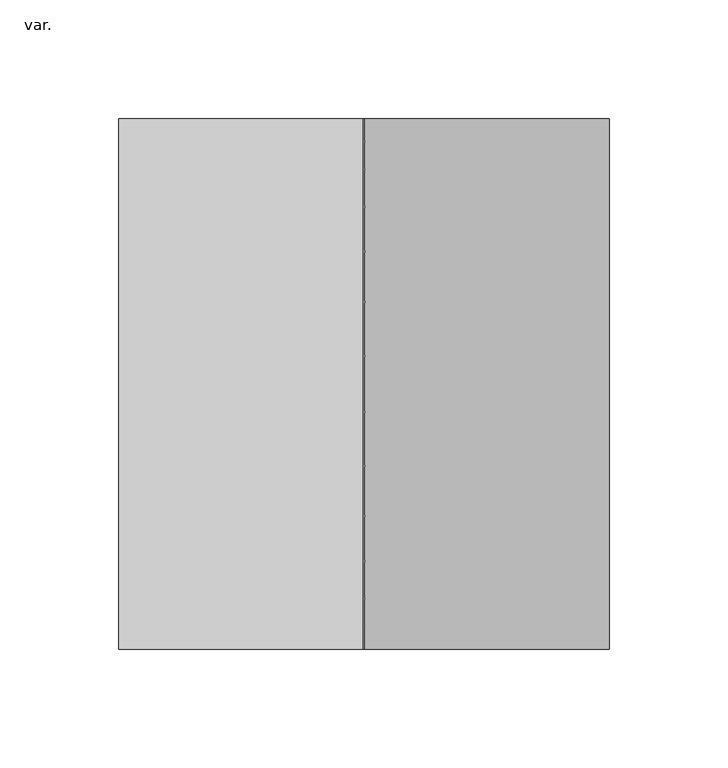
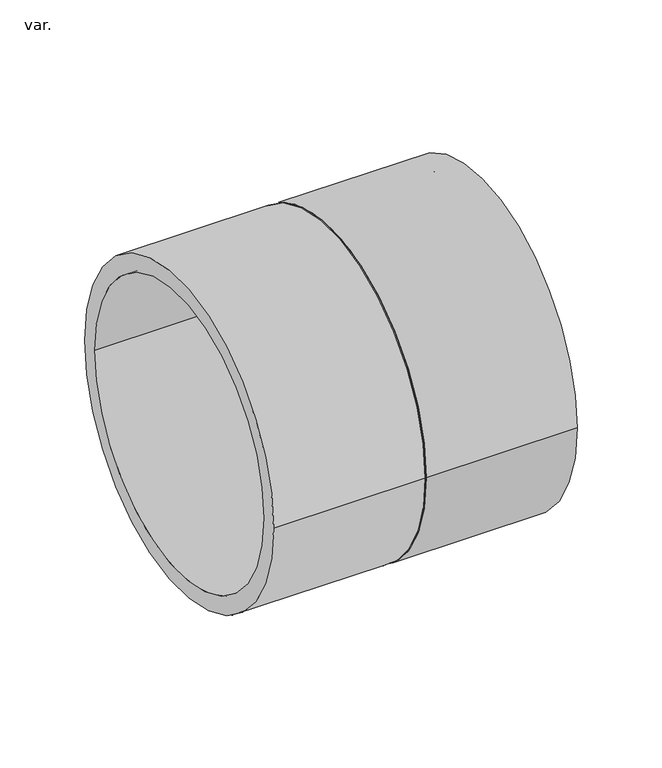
"""IFC4 building model written with IfcOpenShell, lengths in millimetres: pipe fitting geometry, Wavin_PipeFitting_PeZDoNotUseElectrofusionCouplerNested : var.."""

from ifc_helpers import new_model, si_unit, point, frame, origin, origin_2d, place, context, project, spatial, circle_curve, trimmed, segment, composite_curve, outline, extrude, source, transform, mapped, element, save


def var_9b790998(model_context):
    return source(origin(), model_context, "Body", "SweptSolid", [
        extrude(outline(composite_curve([segment(trimmed(circle_curve(origin_2d(), 112.0), [point((-112.0, 0.0))], [point((112.0, 0.0))], False, "CARTESIAN"), True, "CONTINUOUS"), segment(trimmed(circle_curve(origin_2d(), 112.0), [point((112.0, 0.0))], [point((-112.0, 0.0))], False, "CARTESIAN"), True, "CONTINUOUS")], self_intersect=False), holes=[composite_curve([segment(trimmed(circle_curve(origin_2d(), 100.0), [point((-100.0, 0.0))], [point((100.0, 0.0))], True, "CARTESIAN"), True, "CONTINUOUS"), segment(trimmed(circle_curve(origin_2d(), 100.0), [point((100.0, 0.0))], [point((-100.0, 0.0))], True, "CARTESIAN"), True, "CONTINUOUS")], self_intersect=False)]), frame((0.5, 0.0, 0.0), z_axis=(1.0, 0.0, 0.0), x_axis=(0.0, 1.0, 0.0)), (0.0, 0.0, 1.0), 103.0),
        extrude(outline(composite_curve([segment(trimmed(circle_curve(origin_2d(), 112.0), [point((-112.0, 0.0))], [point((112.0, 0.0))], False, "CARTESIAN"), True, "CONTINUOUS"), segment(trimmed(circle_curve(origin_2d(), 112.0), [point((112.0, 0.0))], [point((-112.0, 0.0))], False, "CARTESIAN"), True, "CONTINUOUS")], self_intersect=False), holes=[composite_curve([segment(trimmed(circle_curve(origin_2d(), 100.0), [point((-100.0, 0.0))], [point((100.0, 0.0))], True, "CARTESIAN"), True, "CONTINUOUS"), segment(trimmed(circle_curve(origin_2d(), 100.0), [point((100.0, 0.0))], [point((-100.0, 0.0))], True, "CARTESIAN"), True, "CONTINUOUS")], self_intersect=False)]), frame((0.5, 0.0, 0.0), z_axis=(1.0, 0.0, 0.0), x_axis=(0.0, 1.0, 0.0)), (0.0, 0.0, 1.0), 103.0),
        extrude(outline(composite_curve([segment(trimmed(circle_curve(origin_2d(), 112.0), [point((-112.0, 0.0))], [point((112.0, 0.0))], False, "CARTESIAN"), True, "CONTINUOUS"), segment(trimmed(circle_curve(origin_2d(), 112.0), [point((112.0, 0.0))], [point((-112.0, 0.0))], False, "CARTESIAN"), True, "CONTINUOUS")], self_intersect=False), holes=[composite_curve([segment(trimmed(circle_curve(origin_2d(), 100.0), [point((-100.0, 0.0))], [point((100.0, 0.0))], True, "CARTESIAN"), True, "CONTINUOUS"), segment(trimmed(circle_curve(origin_2d(), 100.0), [point((100.0, 0.0))], [point((-100.0, 0.0))], True, "CARTESIAN"), True, "CONTINUOUS")], self_intersect=False)]), frame((-103.5, 0.0, 0.0), z_axis=(1.0, 0.0, 0.0), x_axis=(0.0, 1.0, 0.0)), (0.0, 0.0, 1.0), 103.0),
        extrude(outline(composite_curve([segment(trimmed(circle_curve(origin_2d(), 112.0), [point((-112.0, 0.0))], [point((112.0, 0.0))], False, "CARTESIAN"), True, "CONTINUOUS"), segment(trimmed(circle_curve(origin_2d(), 112.0), [point((112.0, 0.0))], [point((-112.0, 0.0))], False, "CARTESIAN"), True, "CONTINUOUS")], self_intersect=False), holes=[composite_curve([segment(trimmed(circle_curve(origin_2d(), 100.0), [point((-100.0, 0.0))], [point((100.0, 0.0))], True, "CARTESIAN"), True, "CONTINUOUS"), segment(trimmed(circle_curve(origin_2d(), 100.0), [point((100.0, 0.0))], [point((-100.0, 0.0))], True, "CARTESIAN"), True, "CONTINUOUS")], self_intersect=False)]), frame((-103.5, 0.0, 0.0), z_axis=(1.0, 0.0, 0.0), x_axis=(0.0, 1.0, 0.0)), (0.0, 0.0, 1.0), 103.0),
        extrude(outline(composite_curve([segment(trimmed(circle_curve(origin_2d(), 112.0), [point((-112.0, 0.0))], [point((112.0, 0.0))], False, "CARTESIAN"), True, "CONTINUOUS"), segment(trimmed(circle_curve(origin_2d(), 112.0), [point((112.0, 0.0))], [point((-112.0, 0.0))], False, "CARTESIAN"), True, "CONTINUOUS")], self_intersect=False)), frame((-0.5, 0.0, 0.0), z_axis=(1.0, 0.0, 0.0), x_axis=(0.0, 1.0, 0.0)), (0.0, 0.0, 1.0), 1.0),
    ])


if __name__ == "__main__":
    model = new_model("IFC4")
    model_context = context("Model", 3, world=origin())
    ifc_project = project(units=[si_unit("LENGTHUNIT", "METRE", prefix="MILLI")], contexts=[model_context])
    site = spatial("IfcSite", under=ifc_project)
    building = spatial("IfcBuilding", under=site)
    placement = place(None, origin())
    var_shape = var_9b790998(model_context)
    element("IfcPipeFitting", 1, ObjectType="Wavin_PipeFitting_PeZDoNotUseElectrofusionCouplerNested : var.", at=placement, inside=building, context=model_context, shape_type="MappedRepresentation", body=[
        mapped(var_shape, transform((0.0, 0.0, 0.0), x_axis=(1.0, 0.0, 0.0), y_axis=(0.0, 1.0, 0.0), z_axis=(0.0, 0.0, 1.0))),
    ])
    save(model, "model.ifc")
